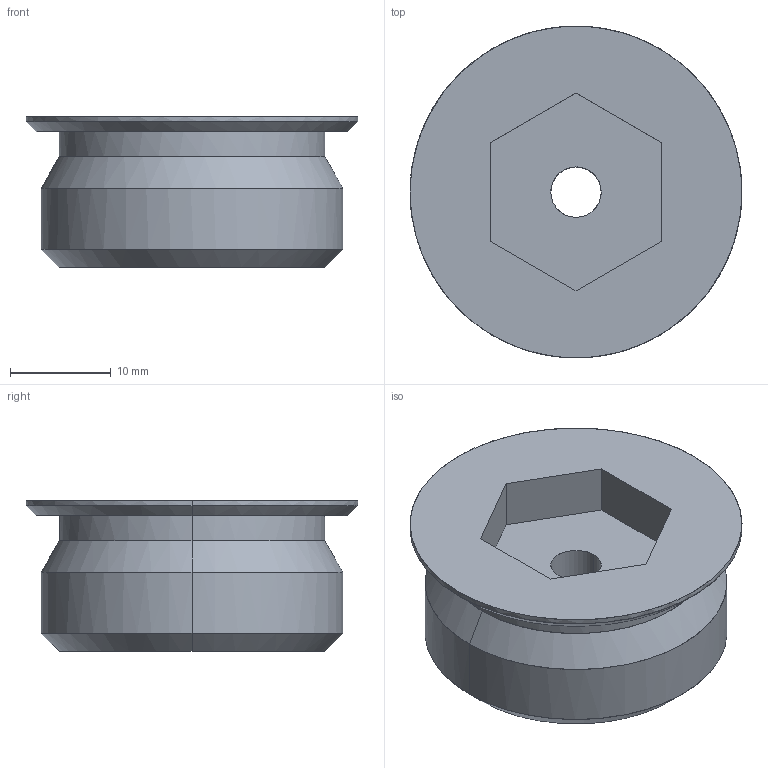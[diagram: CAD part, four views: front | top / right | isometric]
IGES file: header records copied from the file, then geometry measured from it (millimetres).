
Global section: file name: E:\UnigraphicsGraphicData\MISUMI_PRESS-PARTS\IGES\3d_mswzh30_00487_r00.igs; native system: NX V5.0; preprocessor: UGS NX IGES V5.0; author: MISUMI; date: 20110105.161529; units: millimetre
Bounding box: 33 x 33 x 15 mm (x, y, z)
Surface area: 3541.6 mm2 (no closed solid volume)
Topology: 0 solids, 0 shells, 24 faces, 172 edges, 172 vertices
Faces by surface type: bspline 24
